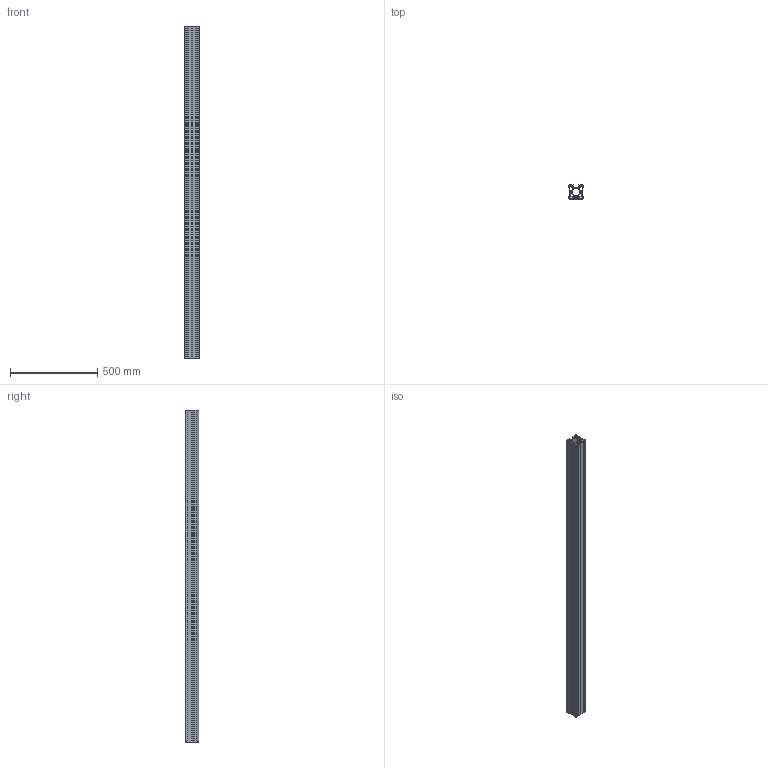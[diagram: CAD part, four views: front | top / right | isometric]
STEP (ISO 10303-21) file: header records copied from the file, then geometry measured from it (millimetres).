
FILE_DESCRIPTION (( 'STEP AP203' ), '1' );
FILE_NAME ('_-_MLF 4 1898 mm lang.step', '2005-09-01T12:46:21', ( ' ' ), ( ' ' ), 'SwSTEP 2.0', 'SolidWorks 2005187', '' );
FILE_SCHEMA (( 'CONFIG_CONTROL_DESIGN' ));
Length unit declared in the file: millimetre
Products named in the file (1): _-_MLF 4  1898 mm lang
Bounding box: 87.6 x 80 x 1898 mm (x, y, z)
Volume: 4373056.5 mm3; surface area: 2346011.3 mm2
Topology: 1 solids, 1 shells, 248 faces, 762 edges, 500 vertices
Faces by surface type: plane 174, cylinder 74
Entity records: 8575 total; most frequent: ORIENTED_EDGE 1524, CARTESIAN_POINT 1511, DIRECTION 1408, EDGE_CURVE 762, VECTOR 614, LINE 614, VERTEX_POINT 500, AXIS2_PLACEMENT_3D 397
